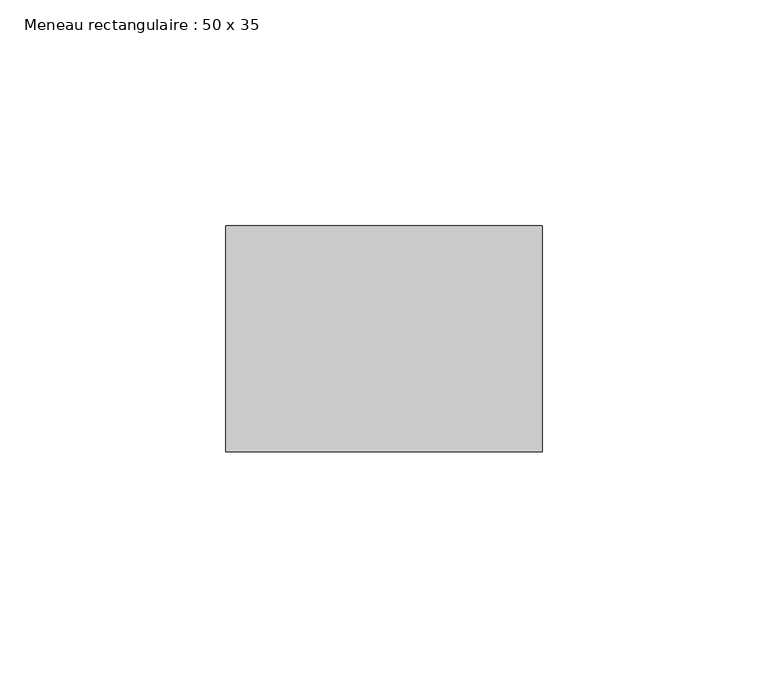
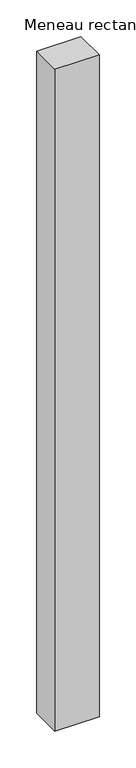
"""IFC4 building model written with IfcOpenShell, lengths in millimetres: member geometry, Meneau rectangulaire : 50 x 35."""

from ifc_helpers import new_model, si_unit, frame, origin, place, context, project, spatial, polyline, outline, extrude, source, transform, mapped, element, save


def meneau_rectangulaire_50_x_35_cbfc7f28(model_context):
    return source(origin(), model_context, "Body", "SweptSolid", [
        extrude(outline(polyline([(35.0, 0.0), (35.0, -50.0), (-35.0, -50.0), (-35.0, 0.0), (35.0, 0.0)])), frame((0.0, 0.0, -1104.8927358), z_axis=(0.0, 0.0, 1.0), x_axis=(1.0, 0.0, 0.0)), (0.0, 0.0, 1.0), 1104.8927358),
    ])


if __name__ == "__main__":
    model = new_model("IFC4")
    model_context = context("Model", 3, world=origin())
    ifc_project = project(units=[si_unit("LENGTHUNIT", "METRE", prefix="MILLI")], contexts=[model_context])
    site = spatial("IfcSite", under=ifc_project)
    building = spatial("IfcBuilding", under=site)
    placement = place(None, origin())
    meneau_rectangulaire_50_x_35_shape = meneau_rectangulaire_50_x_35_cbfc7f28(model_context)
    element("IfcMember", 1, ObjectType="Meneau rectangulaire : 50 x 35", at=placement, inside=building, context=model_context, shape_type="MappedRepresentation", body=[
        mapped(meneau_rectangulaire_50_x_35_shape, transform((0.0, 0.0, 0.0), x_axis=(1.0, 0.0, 0.0), y_axis=(0.0, 1.0, 0.0), z_axis=(0.0, 0.0, 1.0))),
    ])
    save(model, "model.ifc")
